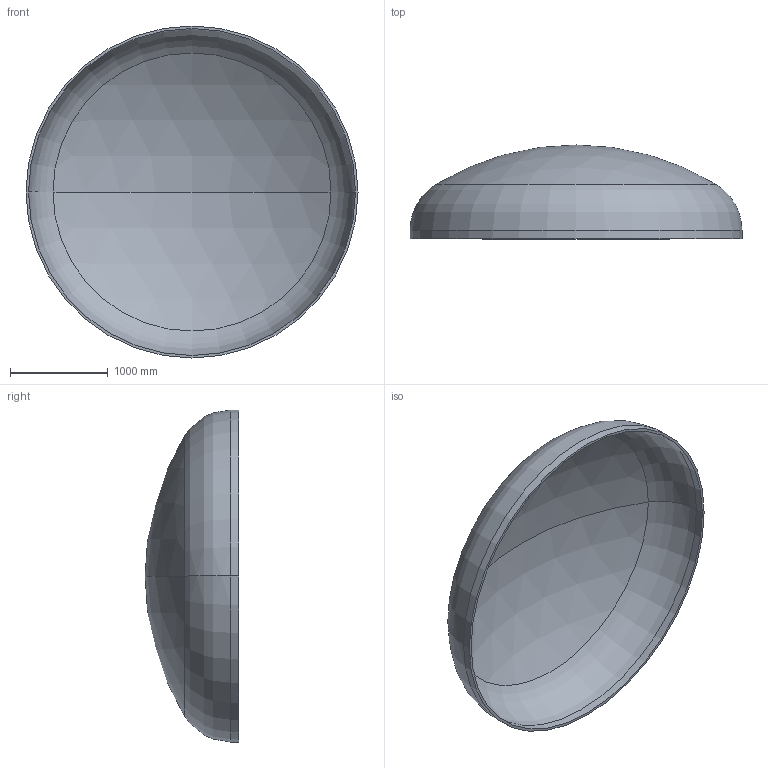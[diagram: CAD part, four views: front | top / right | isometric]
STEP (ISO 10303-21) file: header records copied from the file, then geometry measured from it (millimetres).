
FILE_DESCRIPTION (( 'STEP AP203' ), '1' );
FILE_NAME ('DIN 28013 Korbbogenform_-_Boden DIN 28013 - 3400 x 85 - I - s=26.step', '2016-07-01T19:20:04', ( '' ), ( '' ), 'SwSTEP 2.0', 'SolidWorks 2013', '' );
FILE_SCHEMA (( 'CONFIG_CONTROL_DESIGN' ));
Length unit declared in the file: millimetre
Products named in the file (1): DIN 28013 Korbbogenform_-_Boden DIN 28013 - 3400 x 85 - I - s=26
Bounding box: 3400 x 960.75 x 3400 mm (x, y, z)
Volume: 347246694.7 mm3; surface area: 26988283 mm2
Topology: 1 solids, 1 shells, 13 faces, 24 edges, 14 vertices
Faces by surface type: torus 4, cylinder 4, sphere 4, plane 1
Entity records: 407 total; most frequent: DIRECTION 72, CARTESIAN_POINT 52, ORIENTED_EDGE 48, AXIS2_PLACEMENT_3D 34, EDGE_CURVE 24, CIRCLE 20, VERTEX_POINT 14, EDGE_LOOP 14
